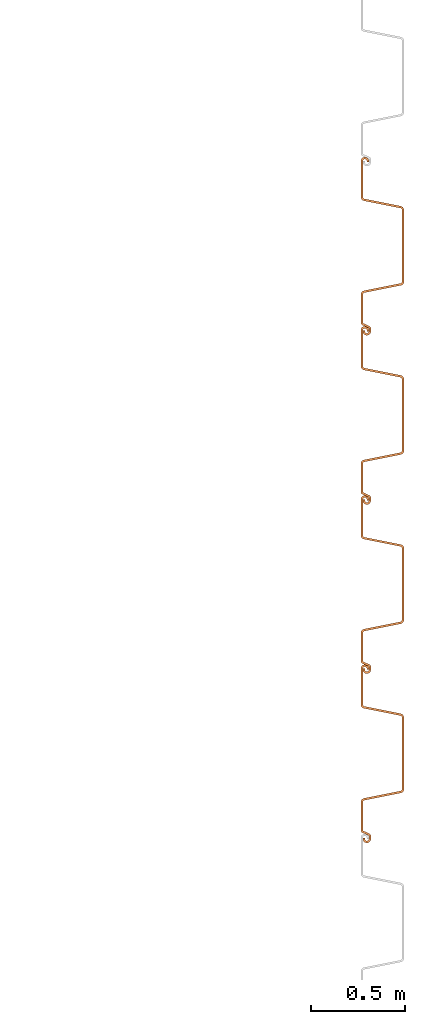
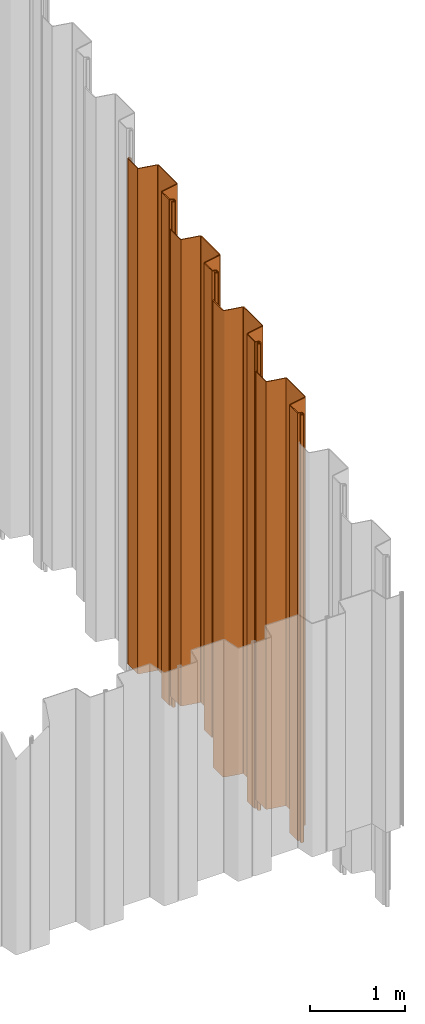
# One storey, part 9 of 12: 4 proxies.
"""IFC2X3 building model written with IfcOpenShell, lengths in millimetres."""

from ifc_helpers import new_model, entity, si_unit, converted_unit, derived_unit, direction, frame, frame_2d, origin, place, context, subcontext, project, spatial, polyline, circle_curve, parameter, trimmed, segment, composite_curve, outline, extrude, source, transform, mapped, material, type_object, type_shapes, element, save


model = new_model("IFC2X3")

# Units and contexts
model_context = context("Model", 3, precision=0.01, world=origin(), true_north=direction((6.12303176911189e-17, 1.0)))
body_context = subcontext(model_context, "Body", "Model", "MODEL_VIEW")
ifc_project = project(units=[si_unit("LENGTHUNIT", "METRE", prefix="MILLI"), si_unit("AREAUNIT", "SQUARE_METRE"), si_unit("VOLUMEUNIT", "CUBIC_METRE"), converted_unit("PLANEANGLEUNIT", "DEGREE", entity("IfcRatioMeasure", 0.0174532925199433), si_unit("PLANEANGLEUNIT", "RADIAN"), dimensions=[0, 0, 0, 0, 0, 0, 0]), si_unit("MASSUNIT", "GRAM", prefix="KILO"), derived_unit("MASSDENSITYUNIT", [(si_unit("MASSUNIT", "GRAM", prefix="KILO"), 1), (si_unit("LENGTHUNIT", "METRE"), -3)]), derived_unit("MOMENTOFINERTIAUNIT", [(si_unit("LENGTHUNIT", "METRE"), 4)]), si_unit("TIMEUNIT", "SECOND"), si_unit("FREQUENCYUNIT", "HERTZ"), si_unit("THERMODYNAMICTEMPERATUREUNIT", "DEGREE_CELSIUS"), derived_unit("THERMALTRANSMITTANCEUNIT", [(si_unit("MASSUNIT", "GRAM", prefix="KILO"), 1), (si_unit("THERMODYNAMICTEMPERATUREUNIT", "KELVIN"), -1), (si_unit("TIMEUNIT", "SECOND"), -3)]), derived_unit("VOLUMETRICFLOWRATEUNIT", [(si_unit("LENGTHUNIT", "METRE"), 3), (si_unit("TIMEUNIT", "SECOND"), -1)]), si_unit("ELECTRICCURRENTUNIT", "AMPERE"), si_unit("ELECTRICVOLTAGEUNIT", "VOLT"), si_unit("POWERUNIT", "WATT"), si_unit("FORCEUNIT", "NEWTON", prefix="KILO"), si_unit("ILLUMINANCEUNIT", "LUX"), si_unit("LUMINOUSFLUXUNIT", "LUMEN"), si_unit("LUMINOUSINTENSITYUNIT", "CANDELA"), derived_unit("USERDEFINED", [(si_unit("MASSUNIT", "GRAM", prefix="KILO"), -1), (si_unit("LENGTHUNIT", "METRE"), -2), (si_unit("TIMEUNIT", "SECOND"), 3), (si_unit("LUMINOUSFLUXUNIT", "LUMEN"), 1)]), derived_unit("LINEARVELOCITYUNIT", [(si_unit("LENGTHUNIT", "METRE"), 1), (si_unit("TIMEUNIT", "SECOND"), -1)]), si_unit("PRESSUREUNIT", "PASCAL"), derived_unit("USERDEFINED", [(si_unit("LENGTHUNIT", "METRE"), -2), (si_unit("MASSUNIT", "GRAM", prefix="KILO"), 1), (si_unit("TIMEUNIT", "SECOND"), -2)]), derived_unit("LINEARFORCEUNIT", [(si_unit("MASSUNIT", "GRAM", prefix="KILO"), 1), (si_unit("LENGTHUNIT", "METRE"), 1), (si_unit("TIMEUNIT", "SECOND"), -2), (si_unit("LENGTHUNIT", "METRE"), -1)]), derived_unit("PLANARFORCEUNIT", [(si_unit("MASSUNIT", "GRAM", prefix="KILO"), 1), (si_unit("LENGTHUNIT", "METRE"), 1), (si_unit("TIMEUNIT", "SECOND"), -2), (si_unit("LENGTHUNIT", "METRE"), -2)])], contexts=[model_context])

# Site, building, storey
site_placement = place(None, origin())
site = spatial("IfcSite", under=ifc_project, at=site_placement, Name="Default", CompositionType="ELEMENT")
building_placement = place(site_placement, origin())
building = spatial("IfcBuilding", under=site, at=building_placement, CompositionType="ELEMENT")
storey_placement = place(building_placement, frame((0.0, 0.0, 10600.0)))
storey = spatial("IfcBuildingStorey", under=building, at=storey_placement, Name="AP+10.600", CompositionType="ELEMENT", Elevation=10600.0)

# Proxies
ifc_material = material(Name="<Unnamed>")
building_element_proxy_type_1 = type_object("IfcBuildingElementProxyType", Name="鋼矢板10H型:鋼矢板10H型", PredefinedType="NOTDEFINED", material=ifc_material)
shared_shape_1 = source(origin(), body_context, "Body", "SweptSolid", [
    extrude(outline(composite_curve([segment(trimmed(circle_curve(frame_2d((85.3662976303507, 306.644432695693), x_axis=(0.422618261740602, 0.906307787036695)), 13.885714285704), [parameter(24.9999999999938)], [parameter(90.0000000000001)], True, "PARAMETER"), True, "CONTINUOUS"), segment(polyline([(72.7815666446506, 312.512789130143), (9.8129512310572, 177.476157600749)]), True, "CONTINUOUS"), segment(trimmed(circle_curve(frame_2d((29.3891994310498, 168.347603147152), x_axis=(0.422618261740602, 0.906307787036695)), 21.6), [parameter(90.0000000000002)], [parameter(168.69006752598)], True, "PARAMETER"), True, "CONTINUOUS"), segment(polyline([(16.598697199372, 150.941769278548), (175.329723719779, 34.2998683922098)]), True, "CONTINUOUS"), segment(trimmed(circle_curve(frame_2d((168.93447260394, 25.596951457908), x_axis=(0.422618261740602, 0.906307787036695)), 10.7999999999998), [parameter(270.0)], [parameter(348.690067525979)], True, "PARAMETER"), False, "CONTINUOUS"), segment(polyline([(178.722596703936, 21.0326742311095), (18.2974003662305, -323.000269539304)]), True, "CONTINUOUS"), segment(trimmed(circle_curve(frame_2d((8.50927626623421, -318.435992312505), x_axis=(0.422618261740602, 0.906307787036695)), 10.8), [parameter(191.30993247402)], [parameter(269.999999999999)], True, "PARAMETER"), False, "CONTINUOUS"), segment(polyline([(5.95324328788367, -328.929166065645), (-185.429973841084, -282.310113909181)]), True, "CONTINUOUS"), segment(trimmed(circle_curve(frame_2d((-190.542039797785, -303.296461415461), x_axis=(0.422618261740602, 0.906307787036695)), 21.6000000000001), [parameter(11.3099324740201)], [parameter(90.0000000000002)], True, "PARAMETER"), True, "CONTINUOUS"), segment(polyline([(-210.118287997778, -294.167906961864), (-290.330886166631, -466.184378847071)]), True, "CONTINUOUS"), segment(trimmed(circle_curve(frame_2d((-270.754637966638, -475.312933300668), x_axis=(0.422618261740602, 0.906307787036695)), 21.6), [parameter(90.0000000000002)], [parameter(269.999999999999)], True, "PARAMETER"), True, "CONTINUOUS"), segment(polyline([(-251.178389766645, -484.441487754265), (-249.065298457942, -479.909948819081)]), True, "CONTINUOUS"), segment(polyline([(-249.065298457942, -479.909948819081), (-258.853422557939, -475.345671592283)]), True, "CONTINUOUS"), segment(polyline([(-258.853422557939, -475.345671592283), (-260.966513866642, -479.877210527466)]), True, "CONTINUOUS"), segment(trimmed(circle_curve(frame_2d((-270.754637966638, -475.312933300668), x_axis=(0.422618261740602, 0.906307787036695)), 10.8), [parameter(90.0000000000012)], [parameter(270.0)], True, "PARAMETER"), False, "CONTINUOUS"), segment(polyline([(-280.542762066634, -470.748656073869), (-200.330163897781, -298.732184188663)]), True, "CONTINUOUS"), segment(trimmed(circle_curve(frame_2d((-190.542039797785, -303.296461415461), x_axis=(0.422618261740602, 0.906307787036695)), 10.8), [parameter(11.3099324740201)], [parameter(89.9999999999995)], True, "PARAMETER"), False, "CONTINUOUS"), segment(polyline([(-187.986006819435, -292.803287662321), (3.39721030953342, -339.422339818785)]), True, "CONTINUOUS"), segment(trimmed(circle_curve(frame_2d((8.50927626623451, -318.435992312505), x_axis=(0.422618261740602, 0.906307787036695)), 21.6), [parameter(191.30993247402)], [parameter(270.0)], True, "PARAMETER"), True, "CONTINUOUS"), segment(polyline([(28.0855244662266, -327.564546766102), (188.510720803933, 16.4683970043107)]), True, "CONTINUOUS"), segment(trimmed(circle_curve(frame_2d((168.93447260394, 25.5969514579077), x_axis=(0.422618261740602, 0.906307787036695)), 21.6), [parameter(270.0)], [parameter(348.69006752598)], True, "PARAMETER"), True, "CONTINUOUS"), segment(polyline([(181.724974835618, 43.0027853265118), (22.9939483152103, 159.644686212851)]), True, "CONTINUOUS"), segment(trimmed(circle_curve(frame_2d((29.3891994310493, 168.347603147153), x_axis=(0.422618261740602, 0.906307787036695)), 10.7999999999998), [parameter(89.9999999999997)], [parameter(168.690067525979)], True, "PARAMETER"), False, "CONTINUOUS"), segment(polyline([(19.6010753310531, 172.911880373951), (82.5696907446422, 307.948511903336)]), True, "CONTINUOUS"), segment(trimmed(circle_curve(frame_2d((85.3662976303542, 306.64443269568), x_axis=(0.422618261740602, 0.906307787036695)), 3.08571428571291), [parameter(25.0000000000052)], [parameter(90.0000000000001)], True, "PARAMETER"), False, "CONTINUOUS"), segment(polyline([(85.3662976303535, 309.730146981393), (122.220231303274, 309.730146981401)]), True, "CONTINUOUS"), segment(trimmed(circle_curve(frame_2d((122.220231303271, 323.615861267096), x_axis=(0.422618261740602, 0.906307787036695)), 13.8857142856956), [parameter(205.000000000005)], [parameter(270.0)], True, "PARAMETER"), True, "CONTINUOUS"), segment(polyline([(134.804962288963, 317.747504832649), (141.079261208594, 331.202782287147)]), True, "CONTINUOUS"), segment(trimmed(circle_curve(frame_2d((121.503013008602, 340.331336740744), x_axis=(0.422618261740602, 0.906307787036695)), 21.6), [parameter(270.0)], [parameter(90.0000000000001)], True, "PARAMETER"), True, "CONTINUOUS"), segment(polyline([(101.926764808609, 349.459891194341), (99.8136734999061, 344.928352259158)]), True, "CONTINUOUS"), segment(polyline([(99.8136734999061, 344.928352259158), (109.601797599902, 340.364075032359)]), True, "CONTINUOUS"), segment(polyline([(109.601797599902, 340.364075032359), (111.714888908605, 344.895613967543)]), True, "CONTINUOUS"), segment(trimmed(circle_curve(frame_2d((121.503013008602, 340.331336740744), x_axis=(0.422618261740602, 0.906307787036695)), 10.8), [parameter(270.0)], [parameter(89.9999999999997)], True, "PARAMETER"), False, "CONTINUOUS"), segment(polyline([(131.291137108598, 335.767059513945), (125.01683818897, 322.311782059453)]), True, "CONTINUOUS"), segment(trimmed(circle_curve(frame_2d((122.220231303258, 323.615861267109), x_axis=(0.422618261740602, 0.906307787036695)), 3.08571428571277), [parameter(204.999999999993)], [parameter(270.0)], True, "PARAMETER"), False, "CONTINUOUS"), segment(polyline([(122.220231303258, 320.530146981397), (85.3662976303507, 320.530146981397)]), True, "CONTINUOUS")], self_intersect=False)), frame((95.205667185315, -48.8888888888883, -5500.0), z_axis=(0.0, 0.0, -1.0), x_axis=(0.4226182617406, 0.906307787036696, 0.0)), (0.0, 0.0, -1.0), 5500.0),
])
type_shapes(building_element_proxy_type_1, [shared_shape_1])
proxy_1_placement = place(storey_placement, frame((89754.0, -12995.0, 383.052684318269), z_axis=(0.0, 0.0, 1.0), x_axis=(0.0, -1.0, 0.0)))
element("IfcBuildingElementProxy", 1, at=proxy_1_placement, inside=storey, type_object=building_element_proxy_type_1, material=ifc_material, Name="鋼矢板10H型:鋼矢板10H型", ObjectType="鋼矢板10H型:鋼矢板10H型", context=body_context, shape_type="MappedRepresentation", body=[
    mapped(shared_shape_1, transform((0.0, 0.0, 0.0), scale=1.0)),
])
building_element_proxy_type_2 = type_object("IfcBuildingElementProxyType", Name="鋼矢板10H型:鋼矢板10H型", PredefinedType="NOTDEFINED", material=ifc_material)
shared_shape_2 = source(origin(), body_context, "Body", "SweptSolid", [
    extrude(outline(composite_curve([segment(trimmed(circle_curve(frame_2d((85.3662976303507, 306.644432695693), x_axis=(0.422618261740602, 0.906307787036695)), 13.885714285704), [parameter(24.9999999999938)], [parameter(90.0000000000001)], True, "PARAMETER"), True, "CONTINUOUS"), segment(polyline([(72.7815666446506, 312.512789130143), (9.8129512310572, 177.476157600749)]), True, "CONTINUOUS"), segment(trimmed(circle_curve(frame_2d((29.3891994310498, 168.347603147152), x_axis=(0.422618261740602, 0.906307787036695)), 21.6), [parameter(90.0000000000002)], [parameter(168.69006752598)], True, "PARAMETER"), True, "CONTINUOUS"), segment(polyline([(16.598697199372, 150.941769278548), (175.329723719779, 34.2998683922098)]), True, "CONTINUOUS"), segment(trimmed(circle_curve(frame_2d((168.93447260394, 25.596951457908), x_axis=(0.422618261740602, 0.906307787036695)), 10.7999999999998), [parameter(270.0)], [parameter(348.690067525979)], True, "PARAMETER"), False, "CONTINUOUS"), segment(polyline([(178.722596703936, 21.0326742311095), (18.2974003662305, -323.000269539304)]), True, "CONTINUOUS"), segment(trimmed(circle_curve(frame_2d((8.50927626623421, -318.435992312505), x_axis=(0.422618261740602, 0.906307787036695)), 10.8), [parameter(191.30993247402)], [parameter(269.999999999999)], True, "PARAMETER"), False, "CONTINUOUS"), segment(polyline([(5.95324328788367, -328.929166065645), (-185.429973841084, -282.310113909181)]), True, "CONTINUOUS"), segment(trimmed(circle_curve(frame_2d((-190.542039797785, -303.296461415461), x_axis=(0.422618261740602, 0.906307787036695)), 21.6000000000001), [parameter(11.3099324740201)], [parameter(90.0000000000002)], True, "PARAMETER"), True, "CONTINUOUS"), segment(polyline([(-210.118287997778, -294.167906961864), (-290.330886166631, -466.184378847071)]), True, "CONTINUOUS"), segment(trimmed(circle_curve(frame_2d((-270.754637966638, -475.312933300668), x_axis=(0.422618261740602, 0.906307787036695)), 21.6), [parameter(90.0000000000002)], [parameter(269.999999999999)], True, "PARAMETER"), True, "CONTINUOUS"), segment(polyline([(-251.178389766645, -484.441487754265), (-249.065298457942, -479.909948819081)]), True, "CONTINUOUS"), segment(polyline([(-249.065298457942, -479.909948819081), (-258.853422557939, -475.345671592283)]), True, "CONTINUOUS"), segment(polyline([(-258.853422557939, -475.345671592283), (-260.966513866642, -479.877210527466)]), True, "CONTINUOUS"), segment(trimmed(circle_curve(frame_2d((-270.754637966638, -475.312933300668), x_axis=(0.422618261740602, 0.906307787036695)), 10.8), [parameter(90.0000000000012)], [parameter(270.0)], True, "PARAMETER"), False, "CONTINUOUS"), segment(polyline([(-280.542762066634, -470.748656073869), (-200.330163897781, -298.732184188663)]), True, "CONTINUOUS"), segment(trimmed(circle_curve(frame_2d((-190.542039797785, -303.296461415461), x_axis=(0.422618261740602, 0.906307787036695)), 10.8), [parameter(11.3099324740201)], [parameter(89.9999999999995)], True, "PARAMETER"), False, "CONTINUOUS"), segment(polyline([(-187.986006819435, -292.803287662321), (3.39721030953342, -339.422339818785)]), True, "CONTINUOUS"), segment(trimmed(circle_curve(frame_2d((8.50927626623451, -318.435992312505), x_axis=(0.422618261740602, 0.906307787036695)), 21.6), [parameter(191.30993247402)], [parameter(270.0)], True, "PARAMETER"), True, "CONTINUOUS"), segment(polyline([(28.0855244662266, -327.564546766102), (188.510720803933, 16.4683970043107)]), True, "CONTINUOUS"), segment(trimmed(circle_curve(frame_2d((168.93447260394, 25.5969514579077), x_axis=(0.422618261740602, 0.906307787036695)), 21.6), [parameter(270.0)], [parameter(348.69006752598)], True, "PARAMETER"), True, "CONTINUOUS"), segment(polyline([(181.724974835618, 43.0027853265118), (22.9939483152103, 159.644686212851)]), True, "CONTINUOUS"), segment(trimmed(circle_curve(frame_2d((29.3891994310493, 168.347603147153), x_axis=(0.422618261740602, 0.906307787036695)), 10.7999999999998), [parameter(89.9999999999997)], [parameter(168.690067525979)], True, "PARAMETER"), False, "CONTINUOUS"), segment(polyline([(19.6010753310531, 172.911880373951), (82.5696907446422, 307.948511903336)]), True, "CONTINUOUS"), segment(trimmed(circle_curve(frame_2d((85.3662976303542, 306.64443269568), x_axis=(0.422618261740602, 0.906307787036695)), 3.08571428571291), [parameter(25.0000000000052)], [parameter(90.0000000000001)], True, "PARAMETER"), False, "CONTINUOUS"), segment(polyline([(85.3662976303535, 309.730146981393), (122.220231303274, 309.730146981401)]), True, "CONTINUOUS"), segment(trimmed(circle_curve(frame_2d((122.220231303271, 323.615861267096), x_axis=(0.422618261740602, 0.906307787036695)), 13.8857142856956), [parameter(205.000000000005)], [parameter(270.0)], True, "PARAMETER"), True, "CONTINUOUS"), segment(polyline([(134.804962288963, 317.747504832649), (141.079261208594, 331.202782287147)]), True, "CONTINUOUS"), segment(trimmed(circle_curve(frame_2d((121.503013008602, 340.331336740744), x_axis=(0.422618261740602, 0.906307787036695)), 21.6), [parameter(270.0)], [parameter(90.0000000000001)], True, "PARAMETER"), True, "CONTINUOUS"), segment(polyline([(101.926764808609, 349.459891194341), (99.8136734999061, 344.928352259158)]), True, "CONTINUOUS"), segment(polyline([(99.8136734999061, 344.928352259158), (109.601797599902, 340.364075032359)]), True, "CONTINUOUS"), segment(polyline([(109.601797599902, 340.364075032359), (111.714888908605, 344.895613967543)]), True, "CONTINUOUS"), segment(trimmed(circle_curve(frame_2d((121.503013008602, 340.331336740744), x_axis=(0.422618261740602, 0.906307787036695)), 10.8), [parameter(270.0)], [parameter(89.9999999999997)], True, "PARAMETER"), False, "CONTINUOUS"), segment(polyline([(131.291137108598, 335.767059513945), (125.01683818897, 322.311782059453)]), True, "CONTINUOUS"), segment(trimmed(circle_curve(frame_2d((122.220231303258, 323.615861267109), x_axis=(0.422618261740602, 0.906307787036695)), 3.08571428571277), [parameter(204.999999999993)], [parameter(270.0)], True, "PARAMETER"), False, "CONTINUOUS"), segment(polyline([(122.220231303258, 320.530146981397), (85.3662976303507, 320.530146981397)]), True, "CONTINUOUS")], self_intersect=False)), frame((95.205667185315, -48.8888888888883, -6000.0), z_axis=(0.0, 0.0, -1.0), x_axis=(0.4226182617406, 0.906307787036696, 0.0)), (0.0, 0.0, -1.0), 6000.0),
])
type_shapes(building_element_proxy_type_2, [shared_shape_2])
for number, where, z_axis, x_axis in (
    (2, (89754.0, -11195.0, 1118.85268431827), (0.0, 0.0, 1.0), (0.0, -1.0, 0.0)),
    (3, (89754.0, -12095.0, 750.95268431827), (0.0, 0.0, 1.0), (0.0, -1.0, 0.0)),
):
    element("IfcBuildingElementProxy", number, at=place(storey_placement, frame(where, z_axis=z_axis, x_axis=x_axis)), inside=storey, type_object=building_element_proxy_type_2, material=ifc_material, Name="鋼矢板10H型:鋼矢板10H型", ObjectType="鋼矢板10H型:鋼矢板10H型", context=body_context, shape_type="MappedRepresentation", body=[
        mapped(shared_shape_2, transform((0.0, 0.0, 0.0), scale=1.0)),
    ])
building_element_proxy_type_3 = type_object("IfcBuildingElementProxyType", Name="鋼矢板10H型:鋼矢板10H型", PredefinedType="NOTDEFINED", material=ifc_material)
shared_shape_3 = source(origin(), body_context, "Body", "SweptSolid", [
    extrude(outline(composite_curve([segment(trimmed(circle_curve(frame_2d((85.3662976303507, 306.644432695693), x_axis=(0.422618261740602, 0.906307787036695)), 13.885714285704), [parameter(24.9999999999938)], [parameter(90.0000000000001)], True, "PARAMETER"), True, "CONTINUOUS"), segment(polyline([(72.7815666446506, 312.512789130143), (9.8129512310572, 177.476157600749)]), True, "CONTINUOUS"), segment(trimmed(circle_curve(frame_2d((29.3891994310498, 168.347603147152), x_axis=(0.422618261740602, 0.906307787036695)), 21.6), [parameter(90.0000000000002)], [parameter(168.69006752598)], True, "PARAMETER"), True, "CONTINUOUS"), segment(polyline([(16.598697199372, 150.941769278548), (175.329723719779, 34.2998683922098)]), True, "CONTINUOUS"), segment(trimmed(circle_curve(frame_2d((168.93447260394, 25.596951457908), x_axis=(0.422618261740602, 0.906307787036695)), 10.7999999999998), [parameter(270.0)], [parameter(348.690067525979)], True, "PARAMETER"), False, "CONTINUOUS"), segment(polyline([(178.722596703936, 21.0326742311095), (18.2974003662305, -323.000269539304)]), True, "CONTINUOUS"), segment(trimmed(circle_curve(frame_2d((8.50927626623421, -318.435992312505), x_axis=(0.422618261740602, 0.906307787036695)), 10.8), [parameter(191.30993247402)], [parameter(269.999999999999)], True, "PARAMETER"), False, "CONTINUOUS"), segment(polyline([(5.95324328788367, -328.929166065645), (-185.429973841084, -282.310113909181)]), True, "CONTINUOUS"), segment(trimmed(circle_curve(frame_2d((-190.542039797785, -303.296461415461), x_axis=(0.422618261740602, 0.906307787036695)), 21.6000000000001), [parameter(11.3099324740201)], [parameter(90.0000000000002)], True, "PARAMETER"), True, "CONTINUOUS"), segment(polyline([(-210.118287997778, -294.167906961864), (-290.330886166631, -466.184378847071)]), True, "CONTINUOUS"), segment(trimmed(circle_curve(frame_2d((-270.754637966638, -475.312933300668), x_axis=(0.422618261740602, 0.906307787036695)), 21.6), [parameter(90.0000000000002)], [parameter(269.999999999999)], True, "PARAMETER"), True, "CONTINUOUS"), segment(polyline([(-251.178389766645, -484.441487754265), (-249.065298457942, -479.909948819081)]), True, "CONTINUOUS"), segment(polyline([(-249.065298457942, -479.909948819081), (-258.853422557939, -475.345671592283)]), True, "CONTINUOUS"), segment(polyline([(-258.853422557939, -475.345671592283), (-260.966513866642, -479.877210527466)]), True, "CONTINUOUS"), segment(trimmed(circle_curve(frame_2d((-270.754637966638, -475.312933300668), x_axis=(0.422618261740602, 0.906307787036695)), 10.8), [parameter(90.0000000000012)], [parameter(270.0)], True, "PARAMETER"), False, "CONTINUOUS"), segment(polyline([(-280.542762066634, -470.748656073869), (-200.330163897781, -298.732184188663)]), True, "CONTINUOUS"), segment(trimmed(circle_curve(frame_2d((-190.542039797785, -303.296461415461), x_axis=(0.422618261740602, 0.906307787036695)), 10.8), [parameter(11.3099324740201)], [parameter(89.9999999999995)], True, "PARAMETER"), False, "CONTINUOUS"), segment(polyline([(-187.986006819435, -292.803287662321), (3.39721030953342, -339.422339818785)]), True, "CONTINUOUS"), segment(trimmed(circle_curve(frame_2d((8.50927626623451, -318.435992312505), x_axis=(0.422618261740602, 0.906307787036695)), 21.6), [parameter(191.30993247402)], [parameter(270.0)], True, "PARAMETER"), True, "CONTINUOUS"), segment(polyline([(28.0855244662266, -327.564546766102), (188.510720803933, 16.4683970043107)]), True, "CONTINUOUS"), segment(trimmed(circle_curve(frame_2d((168.93447260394, 25.5969514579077), x_axis=(0.422618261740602, 0.906307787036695)), 21.6), [parameter(270.0)], [parameter(348.69006752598)], True, "PARAMETER"), True, "CONTINUOUS"), segment(polyline([(181.724974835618, 43.0027853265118), (22.9939483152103, 159.644686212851)]), True, "CONTINUOUS"), segment(trimmed(circle_curve(frame_2d((29.3891994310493, 168.347603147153), x_axis=(0.422618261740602, 0.906307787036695)), 10.7999999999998), [parameter(89.9999999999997)], [parameter(168.690067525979)], True, "PARAMETER"), False, "CONTINUOUS"), segment(polyline([(19.6010753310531, 172.911880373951), (82.5696907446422, 307.948511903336)]), True, "CONTINUOUS"), segment(trimmed(circle_curve(frame_2d((85.3662976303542, 306.64443269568), x_axis=(0.422618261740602, 0.906307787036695)), 3.08571428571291), [parameter(25.0000000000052)], [parameter(90.0000000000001)], True, "PARAMETER"), False, "CONTINUOUS"), segment(polyline([(85.3662976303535, 309.730146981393), (122.220231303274, 309.730146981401)]), True, "CONTINUOUS"), segment(trimmed(circle_curve(frame_2d((122.220231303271, 323.615861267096), x_axis=(0.422618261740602, 0.906307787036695)), 13.8857142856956), [parameter(205.000000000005)], [parameter(270.0)], True, "PARAMETER"), True, "CONTINUOUS"), segment(polyline([(134.804962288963, 317.747504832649), (141.079261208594, 331.202782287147)]), True, "CONTINUOUS"), segment(trimmed(circle_curve(frame_2d((121.503013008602, 340.331336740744), x_axis=(0.422618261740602, 0.906307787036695)), 21.6), [parameter(270.0)], [parameter(90.0000000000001)], True, "PARAMETER"), True, "CONTINUOUS"), segment(polyline([(101.926764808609, 349.459891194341), (99.8136734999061, 344.928352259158)]), True, "CONTINUOUS"), segment(polyline([(99.8136734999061, 344.928352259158), (109.601797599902, 340.364075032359)]), True, "CONTINUOUS"), segment(polyline([(109.601797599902, 340.364075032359), (111.714888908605, 344.895613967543)]), True, "CONTINUOUS"), segment(trimmed(circle_curve(frame_2d((121.503013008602, 340.331336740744), x_axis=(0.422618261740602, 0.906307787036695)), 10.8), [parameter(270.0)], [parameter(89.9999999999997)], True, "PARAMETER"), False, "CONTINUOUS"), segment(polyline([(131.291137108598, 335.767059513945), (125.01683818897, 322.311782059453)]), True, "CONTINUOUS"), segment(trimmed(circle_curve(frame_2d((122.220231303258, 323.615861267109), x_axis=(0.422618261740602, 0.906307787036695)), 3.08571428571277), [parameter(204.999999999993)], [parameter(270.0)], True, "PARAMETER"), False, "CONTINUOUS"), segment(polyline([(122.220231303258, 320.530146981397), (85.3662976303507, 320.530146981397)]), True, "CONTINUOUS")], self_intersect=False)), frame((95.205667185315, -48.8888888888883, -6500.0), z_axis=(0.0, 0.0, -1.0), x_axis=(0.4226182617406, 0.906307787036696, 0.0)), (0.0, 0.0, -1.0), 6500.0),
])
type_shapes(building_element_proxy_type_3, [shared_shape_3])
proxy_2_placement = place(storey_placement, frame((89754.0, -10295.0, 1486.75268431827), z_axis=(0.0, 0.0, 1.0), x_axis=(0.0, -1.0, 0.0)))
element("IfcBuildingElementProxy", 4, at=proxy_2_placement, inside=storey, type_object=building_element_proxy_type_3, material=ifc_material, Name="鋼矢板10H型:鋼矢板10H型", ObjectType="鋼矢板10H型:鋼矢板10H型", context=body_context, shape_type="MappedRepresentation", body=[
    mapped(shared_shape_3, transform((0.0, 0.0, 0.0), scale=1.0)),
])

save(model, "model.ifc")
